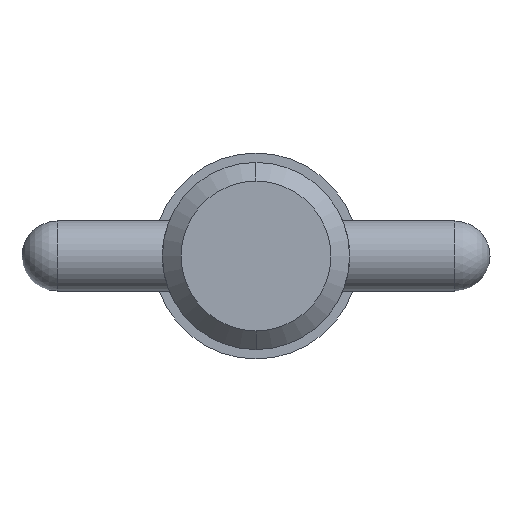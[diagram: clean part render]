
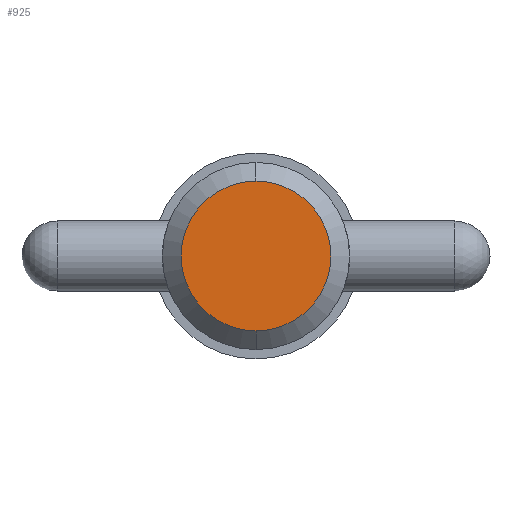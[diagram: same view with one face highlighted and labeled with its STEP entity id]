
A CAD part, left-side view. The second image highlights one B-rep face of the part: STEP entity #925.
In plain terms, the highlighted planar face has unit normal (-1, 0, 0).
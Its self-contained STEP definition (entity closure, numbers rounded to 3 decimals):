
#24 = DIRECTION ( 'NONE',  ( 1., 0., 0. ) ) ;
#40 = FACE_OUTER_BOUND ( 'NONE', #878, .T. ) ;
#122 = CARTESIAN_POINT ( 'NONE',  ( 0., 0., 0. ) ) ;
#170 = CIRCLE ( 'NONE', #479, 5.08 ) ;
#185 = AXIS2_PLACEMENT_3D ( 'NONE', #592, #583, #438 ) ;
#186 = ORIENTED_EDGE ( 'NONE', *, *, #223, .F. ) ;
#223 = EDGE_CURVE ( 'NONE', #726, #224, #803, .T. ) ;
#224 = VERTEX_POINT ( 'NONE', #749 ) ;
#403 = AXIS2_PLACEMENT_3D ( 'NONE', #122, #608, #581 ) ;
#430 = CARTESIAN_POINT ( 'NONE',  ( 0., 0., 0. ) ) ;
#438 = DIRECTION ( 'NONE',  ( 0., 0., -1. ) ) ;
#479 = AXIS2_PLACEMENT_3D ( 'NONE', #430, #24, #684 ) ;
#549 = CARTESIAN_POINT ( 'NONE',  ( 0., 0., -5.08 ) ) ;
#581 = DIRECTION ( 'NONE',  ( 0., 0., 1. ) ) ;
#583 = DIRECTION ( 'NONE',  ( 1., 0., 0. ) ) ;
#592 = CARTESIAN_POINT ( 'NONE',  ( 0., 0., 0. ) ) ;
#608 = DIRECTION ( 'NONE',  ( -1., 0., 0. ) ) ;
#684 = DIRECTION ( 'NONE',  ( 0., 0., -1. ) ) ;
#726 = VERTEX_POINT ( 'NONE', #549 ) ;
#749 = CARTESIAN_POINT ( 'NONE',  ( 0., 0., 5.08 ) ) ;
#803 = CIRCLE ( 'NONE', #185, 5.08 ) ;
#878 = EDGE_LOOP ( 'NONE', ( #186, #1037 ) ) ;
#925 = ADVANCED_FACE ( 'NONE', ( #40 ), #1013, .T. ) ;
#975 = EDGE_CURVE ( 'NONE', #224, #726, #170, .T. ) ;
#1013 = PLANE ( 'NONE',  #403 ) ;
#1037 = ORIENTED_EDGE ( 'NONE', *, *, #975, .F. ) ;
